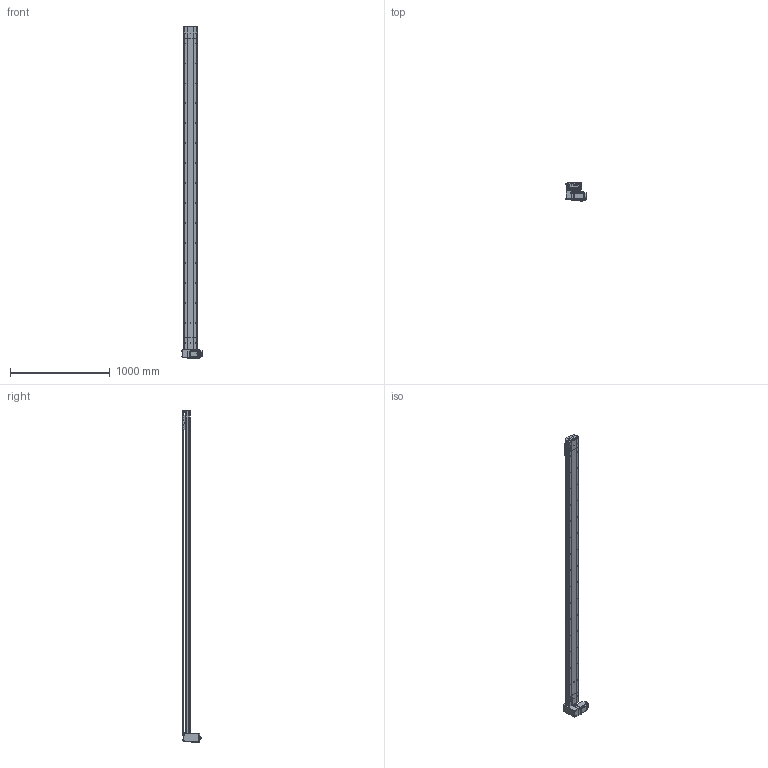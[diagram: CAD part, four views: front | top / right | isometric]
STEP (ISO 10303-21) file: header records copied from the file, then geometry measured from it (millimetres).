
FILE_DESCRIPTION (( 'STEP AP214' ), '1' );
FILE_NAME ('D14 TBH RU S3000.STEP', '2010-06-29T14:44:19', ( 'Conseil Régional Haute-Normandie' ), ( 'Conseil Régional Haute-Normandie' ), 'SwSTEP 2.0', 'SolidWorks 2010', '' );
FILE_SCHEMA (( 'AUTOMOTIVE_DESIGN' ));
Length unit declared in the file: millimetre
Products named in the file (39): Rail + couroie D14 Course 3000 ; Plaque racord D14_Default; Tail D14B_Default; couvercle D14 course L3000_Default; Cache_Default; corpl tail D14_Default; Conecteur2_Default; plaque de  bout tail D14_Default; renvoi RH_Default; codeur 90BLDC100-640; Vis M5 L16-2_Default; corps 90BLDC100A-640; avant 90BLDC100A-640; poulie head_Default; tete d''axe haut D14; Arbre+rail head D14; plaque de  bout head D14 RU_Default; Moteur motionking 90BLDC100A-640; couvercle D14 head_Default; couroie 2_Default; corp head D14_Default; D14 TB H RU_Default; Couroie_Default; poulie tail_Default; vis M5 L8 90°_Default; Chariot D14; Conecteur_Default; guide D14; vis M5 L16_Default; Cache arbre_Default; D14 TBH RU S3000; couvercle D14_Default; D14 couroie L3000_Default; vis M5 L12_Default; corpl 3000_Default; Arbre+rail tail D14; vis M5 L5_Default; chariot D14B_Default; Cvis M5 L70_Default
Assembly tree (68 placements, depth 4):
  D14 TBH RU S3000
    chariot D14B_Default
      vis M5 L12_Default  x4
      guide D14  x2
      Chariot D14
    D14 couroie L3000_Default
      corpl 3000_Default
      Rail + couroie D14 Course 3000 
      couvercle D14 course L3000_Default
    Tail D14B_Default
      tete d''axe haut D14
      Arbre+rail tail D14
      poulie tail_Default
      couvercle D14_Default
      vis M5 L8 90°_Default  x2
      vis M5 L12_Default  x4
      vis M5 L16_Default  x2
      corpl tail D14_Default
      Couroie_Default
      plaque de  bout tail D14_Default
    D14 TB H RU_Default
      vis M5 L12_Default  x12
      renvoi RH_Default
      Moteur motionking 90BLDC100A-640
        Conecteur2_Default
        Conecteur_Default
        avant 90BLDC100A-640
        corps 90BLDC100A-640
        codeur 90BLDC100-640
      corp head D14_Default
      Arbre+rail head D14
      Cvis M5 L70_Default  x4
      Vis M5 L16-2_Default  x4
      plaque de  bout head D14 RU_Default
      Cache_Default  x2
      vis M5 L5_Default  x2
      Cache arbre_Default
      Plaque racord D14_Default
      couvercle D14 head_Default
      couroie 2_Default
      poulie head_Default
Bounding box: 207.2 x 191.1 x 3325.75 mm (x, y, z)
Volume: 12160834.3 mm3; surface area: 4458688.5 mm2
Topology: 92 solids, 92 shells, 2773 faces, 6755 edges, 4362 vertices
Faces by surface type: plane 1625, cylinder 835, bspline 136, torus 89, cone 84, sphere 4
Entity records: 83384 total; most frequent: CARTESIAN_POINT 24229, ORIENTED_EDGE 10370, DIRECTION 10324, EDGE_CURVE 5185, AXIS2_PLACEMENT_3D 3471, VERTEX_POINT 3412, LINE 3382, VECTOR 3382
